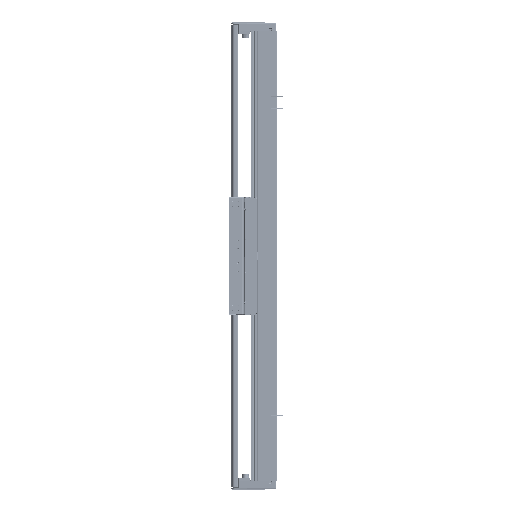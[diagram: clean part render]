
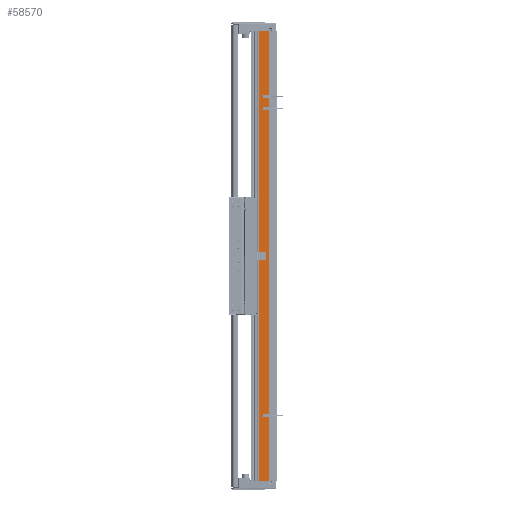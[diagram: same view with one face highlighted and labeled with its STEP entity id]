
A CAD part, left-side view. The second image highlights one B-rep face of the part: STEP entity #58570.
In plain terms, the highlighted planar face has unit normal (-1, 0, 0).
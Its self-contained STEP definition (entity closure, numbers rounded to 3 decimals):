
#2950 = VECTOR ( 'NONE', #85627, 1000. ) ;
#3176 = EDGE_CURVE ( 'NONE', #74056, #138583, #115464, .T. ) ;
#5525 = FACE_OUTER_BOUND ( 'NONE', #97133, .T. ) ;
#22187 = LINE ( 'NONE', #88686, #61493 ) ;
#23633 = CARTESIAN_POINT ( 'NONE',  ( -97.5, 36.95, -480. ) ) ;
#27059 = VECTOR ( 'NONE', #72900, 1000. ) ;
#32527 = LINE ( 'NONE', #94876, #27059 ) ;
#34892 = DIRECTION ( 'NONE',  ( 0., 0., -1. ) ) ;
#38782 = CARTESIAN_POINT ( 'NONE',  ( -97.5, 36.95, 480. ) ) ;
#42458 = CARTESIAN_POINT ( 'NONE',  ( -97.5, 36.95, 480. ) ) ;
#45076 = VERTEX_POINT ( 'NONE', #123388 ) ;
#46350 = ORIENTED_EDGE ( 'NONE', *, *, #55754, .F. ) ;
#46888 = ORIENTED_EDGE ( 'NONE', *, *, #62655, .F. ) ;
#50160 = ORIENTED_EDGE ( 'NONE', *, *, #3176, .T. ) ;
#55754 = EDGE_CURVE ( 'NONE', #45076, #138583, #22187, .T. ) ;
#58570 = ADVANCED_FACE ( 'NONE', ( #5525 ), #103181, .F. ) ;
#59972 = DIRECTION ( 'NONE',  ( 0., 1., 0. ) ) ;
#61493 = VECTOR ( 'NONE', #34892, 1000. ) ;
#62655 = EDGE_CURVE ( 'NONE', #96578, #45076, #116082, .T. ) ;
#66986 = ORIENTED_EDGE ( 'NONE', *, *, #125445, .T. ) ;
#72900 = DIRECTION ( 'NONE',  ( 0., 0., -1. ) ) ;
#74056 = VERTEX_POINT ( 'NONE', #23633 ) ;
#74124 = VECTOR ( 'NONE', #138747, 1000. ) ;
#85627 = DIRECTION ( 'NONE',  ( 0., -1., 0. ) ) ;
#88686 = CARTESIAN_POINT ( 'NONE',  ( -97.5, 14.45, 480. ) ) ;
#94876 = CARTESIAN_POINT ( 'NONE',  ( -97.5, 36.95, 480. ) ) ;
#94957 = CARTESIAN_POINT ( 'NONE',  ( -97.5, 36.95, -480. ) ) ;
#96578 = VERTEX_POINT ( 'NONE', #138468 ) ;
#97133 = EDGE_LOOP ( 'NONE', ( #50160, #46350, #46888, #66986 ) ) ;
#103181 = PLANE ( 'NONE',  #125126 ) ;
#115464 = LINE ( 'NONE', #94957, #74124 ) ;
#116082 = LINE ( 'NONE', #42458, #2950 ) ;
#122991 = DIRECTION ( 'NONE',  ( 1., 0., 0. ) ) ;
#123388 = CARTESIAN_POINT ( 'NONE',  ( -97.5, 14.45, 480. ) ) ;
#125126 = AXIS2_PLACEMENT_3D ( 'NONE', #38782, #122991, #59972 ) ;
#125445 = EDGE_CURVE ( 'NONE', #96578, #74056, #32527, .T. ) ;
#136968 = CARTESIAN_POINT ( 'NONE',  ( -97.5, 14.45, -480. ) ) ;
#138468 = CARTESIAN_POINT ( 'NONE',  ( -97.5, 36.95, 480. ) ) ;
#138583 = VERTEX_POINT ( 'NONE', #136968 ) ;
#138747 = DIRECTION ( 'NONE',  ( 0., -1., 0. ) ) ;
